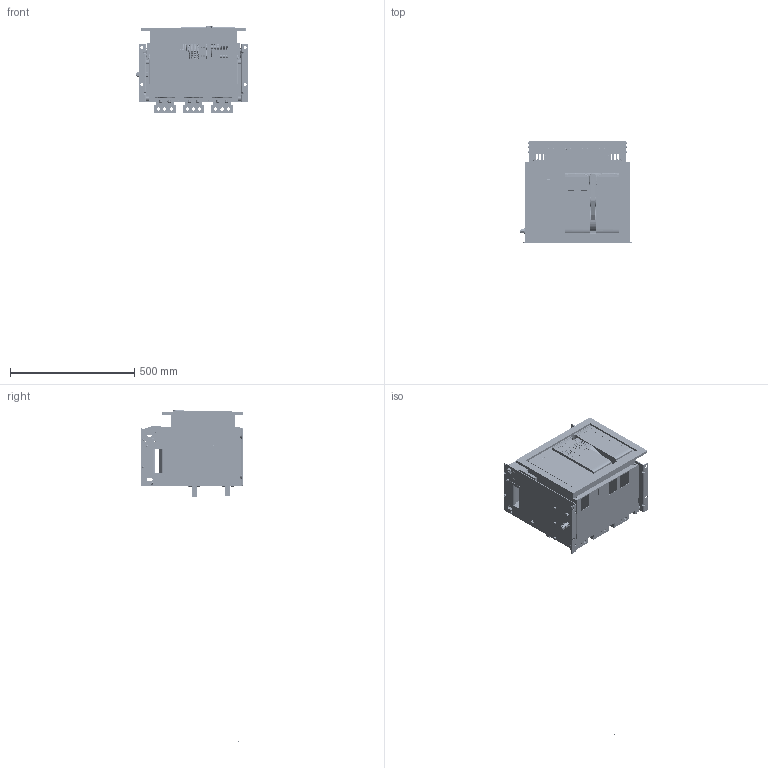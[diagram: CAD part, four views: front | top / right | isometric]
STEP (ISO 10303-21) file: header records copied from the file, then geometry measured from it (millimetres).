
FILE_DESCRIPTION (( 'STEP AP214' ), '1' );
FILE_NAME ('TGW1N-4000 F 3P 2500A.STEP', '2026-06-01T11:29:55', ( '' ), ( '' ), 'SwSTEP 2.0', 'SolidWorks 2024', '' );
FILE_SCHEMA (( 'AUTOMOTIVE_DESIGN' ));
Length unit declared in the file: millimetre
Products named in the file (254): 8TZD_043_1228_AF5_1_1_2_3.stp.STEP; 5TZD_744_6006_AF4_1_1.stp.STEP; 6TZD_262_6000_AF5_1_1.stp.STEP; GB_T9074_4-M6X80_AF9_1_1.stp.STEP; GB_T93-8_AF6_1_1_2_ASM.stp.STEP; GB_T818-M6X35_AF4_1_1.stp.STEP; 8TZD_940_1006_AF6_1_1.stp.STEP; GB_T819_1-M6X16_AF16_1.stp.STEP; GB_T9074_4-M6X80_AF6_1_1.stp.STEP; GB_T97_1_6_AF14_1_1.stp.STEP; GB_T70_1-M8X30_1_1.stp.STEP; 8TZD_580_6003_1.stp.STEP; 6TZD_262_6000_AF6_1_1.stp.STEP; 8TZD_580_1091_AF4_1_1.stp.STEP; GB_T848-8_AF7_1_1.stp.STEP; 8TZD_024_6038_AF1_1_1_2_ASM.stp.STEP; 8TZD_552_1060_AF3_1.stp.STEP; GB_T896-6_1_1.stp.STEP; GB_T5782-M6X16_1_1.stp.STEP; GB_T818-M6X35_AF5_1_1.stp.STEP; 44444444444_1_1.stp.STEP; 8TZD_947_1002_AF13_1.stp.STEP; GB_T818-M6X60_1_1.stp.STEP; 5TZD_580_1024_AF3_ASM_1_1_ASM.stp.STEP; GB_T848-8_AF6_1_1.stp.STEP; GB_T5783-M12X40_1_1.stp.STEP; TUIGAN_1_1.stp.STEP; 8TZD_043_1228_AF5_1_1_2_1.stp.STEP; GB_T819_1-M6X30_AF11_1.stp.STEP; 8TZD_552_1060_AF5_1.stp.STEP; 8TZD_941_1000_AF6_1_1.stp.STEP; GB_T9074_4-M6X80_AF7_1_1.stp.STEP; 8TZD_125_1003_1_1.stp.STEP; 8TZD_043_1228_AF5_1_1_2_ASM.stp.STEP; 77777777777_AF0_1_1.stp.STEP; 8TZD_043_1228_AF3_1_1_2_1.stp.STEP; 5TZD_315_1763_AF1_1_1.stp.STEP; 8TZD_940_1006_AF7_1_1.stp.STEP; 3200DAZHAOKE_ASM_1_1_ASM.stp.STEP; TENGEN_TGW1N-4000_3P_2900A-3200_ASM.stp.STEP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
Assembly tree (402 placements, depth 9):
  TGW1N-4000 F 3P 2500A
    TGW1N-4000 F 3P 2500A.STEP
      tengen_TGW1N-4000_3P_2500A-Fixed(A.1).stp.STEP
        TENGEN_TGW1N-4000_3P_2900A-3200_ASM.stp.STEP
          2TZD_257_6001_ASM_1_ASM.stp.STEP
            5TZD_024_1265_AF1_ASM_1_1_ASM.stp.STEP
              5TZD_024_1263_AF1_ASM_1_1_ASM.stp.STEP
                8TZD_024_6038_AF1_1_1_2_ASM.stp.STEP
                  8TZD_024_6038_AF1_1_1_2_1.stp.STEP
                  8TZD_024_6038_AF1_1_1_2_2.stp.STEP
                  8TZD_024_6038_AF1_1_1_2_3.stp.STEP
                8TZD_947_1003_AF2_1_1.stp.STEP
                8TZD_947_1003_AF3_1_1.stp.STEP
                8TZD_947_1002_AF8_1_1.stp.STEP
                8TZD_947_1002_AF9_1_1.stp.STEP
                8TZD_947_1002_AF10_1_1.stp.STEP
                8TZD_947_1002_AF11_1_1.stp.STEP
                8TZD_947_1002_AF12_1_1.stp.STEP
                GB_T809-M6X12-B_AF3_1_1.stp.STEP
                GB_T809-M6X12-B_AF4_1_1.stp.STEP
              5TZD_580_1026_AF3_ASM_1_1_ASM.stp.STEP
                5TZD_580_1024_AF3_ASM_1_1_ASM.stp.STEP
                  8TZD_580_1091_AF3_1_1.stp.STEP
                8TZD_043_1228_AF3_1_1_2_ASM.stp.STEP
                  8TZD_043_1228_AF3_1_1_2_1.stp.STEP
                  8TZD_043_1228_AF3_1_1_2_2.stp.STEP
                  8TZD_043_1228_AF3_1_1_2_3.stp.STEP
                5TZD_141_1019_AF3_ASM_1_1_ASM.stp.STEP
                  8TZD_206_1018_AF7_1_1.stp.STEP
                8TZD_104_1084_AF3_1_1.stp.STEP
                GB_T845-ST6_3X16-C_AF18_1_1.stp.STEP
                GB_T845-ST6_3X16-C_AF19_1_1.stp.STEP
                GB_T845-ST6_3X16-C_AF20_1_1.stp.STEP
                GB_T5782-M6X25_AF6_1_1.stp.STEP
                GB_T6170-M6_AF6_1_1.stp.STEP
                GB_T5782-M6X25_AF7_1_1.stp.STEP
                GB_T6170-M6_AF7_1_1.stp.STEP
              5TZD_580_1026_AF4_ASM_1_1_ASM.stp.STEP
                5TZD_580_1024_AF4_ASM_1_1_ASM.stp.STEP
                  8TZD_580_1091_AF4_1_1.stp.STEP
                8TZD_043_1228_AF4_1_1_2_ASM.stp.STEP
                  8TZD_043_1228_AF4_1_1_2_1.stp.STEP
                  8TZD_043_1228_AF4_1_1_2_2.stp.STEP
                GB_T5782-M6X25_AF8_1_1.stp.STEP
                GB_T6170-M6_AF8_1_1.stp.STEP
                GB_T5782-M6X25_AF9_1_1.stp.STEP
                GB_T6170-M6_AF9_1_1.stp.STEP
              5TZD_580_1026_AF5_ASM_1_1_ASM.stp.STEP
                5TZD_580_1024_AF5_ASM_1_1_ASM.stp.STEP
                  8TZD_580_1091_AF5_1_1.stp.STEP
                8TZD_043_1228_AF5_1_1_2_ASM.stp.STEP
                  8TZD_043_1228_AF5_1_1_2_1.stp.STEP
                  8TZD_043_1228_AF5_1_1_2_2.stp.STEP
                  8TZD_043_1228_AF5_1_1_2_3.stp.STEP
                5TZD_141_1020_AF5_ASM_1_1_ASM.stp.STEP
                  8TZD_206_1018_AF10_1_1.stp.STEP
                8TZD_104_1084_AF5_1_1.stp.STEP
                8TZD_300_1234_AF5_1_1.stp.STEP
                GB_T845-ST6_3X16-C_AF33_1_1.stp.STEP
                GB_T845-ST6_3X16-C_AF34_1_1.stp.STEP
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Bounding box: 450 x 414.63 x 1337.59 mm (x, y, z)
Volume: 5765331.7 mm3; surface area: 3794850.1 mm2
Topology: 190 solids, 919 shells, 24253 faces, 61482 edges, 38283 vertices
Faces by surface type: plane 9460, cylinder 8071, torus 4629, cone 1107, bspline 607, sphere 379
Entity records: 816241 total; most frequent: CARTESIAN_POINT 344580, ORIENTED_EDGE 104788, DIRECTION 79965, EDGE_CURVE 53043, VERTEX_POINT 33464, AXIS2_PLACEMENT_3D 31880, B_SPLINE_CURVE_WITH_KNOTS 25658, EDGE_LOOP 23882
